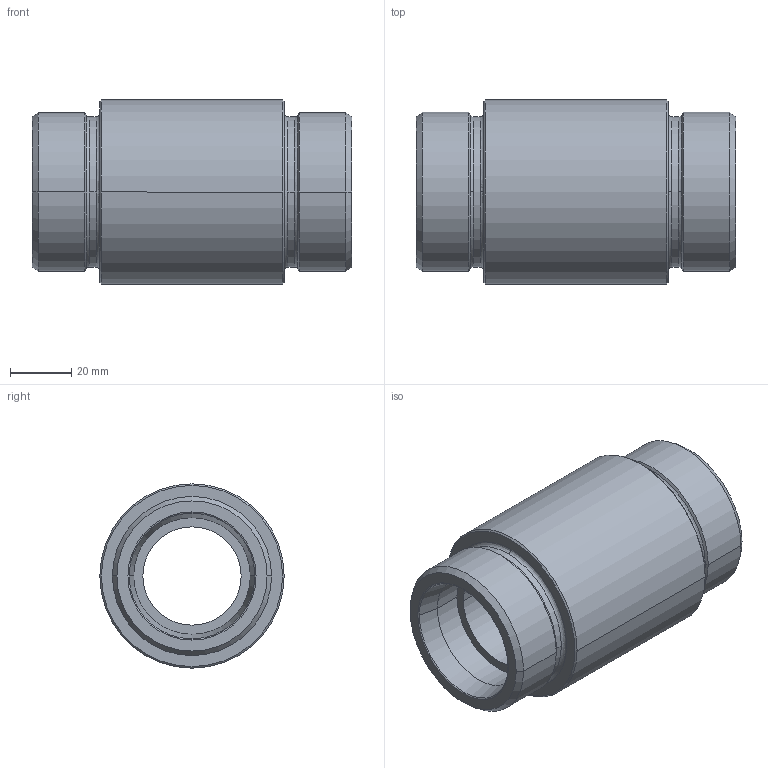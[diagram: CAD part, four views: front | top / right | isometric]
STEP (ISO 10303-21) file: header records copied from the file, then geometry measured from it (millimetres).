
FILE_DESCRIPTION((''),'2;1');
FILE_NAME('105623.stp','2007-10-31T14:06:49',(''),(''),'AutoCAD STEP 2000i','AutoCAD 2000i',', , ');
FILE_SCHEMA(('CONFIG_CONTROL_DESIGN'));
Length unit declared in the file: millimetre
Products named in the file (2): 105623.0; BARRA TONDA#0
Assembly tree (1 placements, depth 2):
  105623.0
    BARRA TONDA#0
Bounding box: 104 x 60 x 60 mm (x, y, z)
Volume: 164308.2 mm3; surface area: 33299.2 mm2
Topology: 1 solids, 1 shells, 50 faces, 120 edges, 76 vertices
Faces by surface type: cone 16, cylinder 16, bspline 8, plane 6, torus 4
Entity records: 1929 total; most frequent: CARTESIAN_POINT 600, DIRECTION 296, ORIENTED_EDGE 240, AXIS2_PLACEMENT_3D 132, EDGE_CURVE 120, CIRCLE 88, VERTEX_POINT 76, EDGE_LOOP 56
